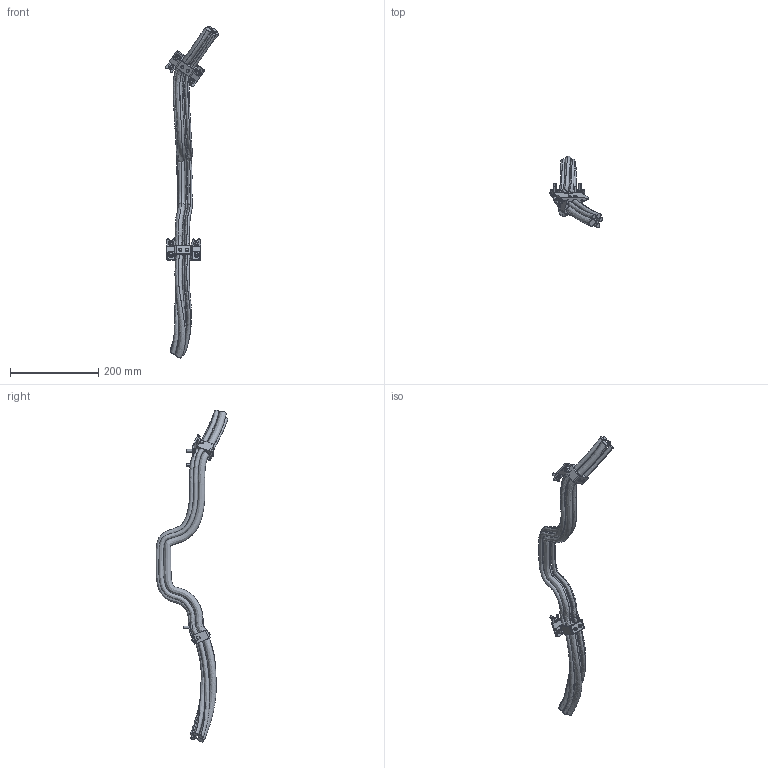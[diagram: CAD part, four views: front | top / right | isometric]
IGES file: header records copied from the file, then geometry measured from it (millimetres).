
Start section: SolidWorks IGES file using analytic representation for surfaces
Global section: file name: C:\Data\Lättmodeller\Nytt\2600\2600_IRC5_IGES_j\IRB2600_12-165_CABLES_LINK2_rev00.IGS; native system: SolidWorks 2014; preprocessor: SolidWorks 2014; author: seadbov; date: 161202.113331; units: millimetre
Bounding box: 120.39 x 162.8 x 751.94 mm (x, y, z)
Surface area: 201004.1 mm2 (no closed solid volume)
Topology: 0 solids, 0 shells, 452 faces, 8195 edges, 8194 vertices
Faces by surface type: bspline 253, revolution 199
